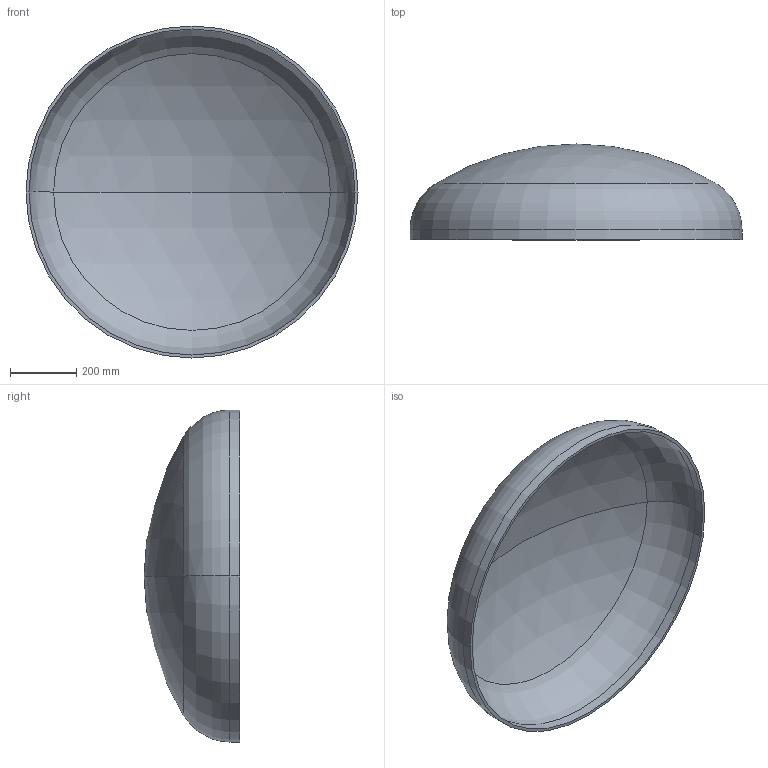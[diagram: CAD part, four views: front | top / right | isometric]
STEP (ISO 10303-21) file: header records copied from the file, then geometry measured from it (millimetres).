
FILE_DESCRIPTION (( 'STEP AP203' ), '1' );
FILE_NAME ('DIN 28013 Korbbogenform_-_Boden DIN 28013 - 1000 x 30 - I - s=9.step', '2016-07-01T08:41:54', ( '' ), ( '' ), 'SwSTEP 2.0', 'SolidWorks 2013', '' );
FILE_SCHEMA (( 'CONFIG_CONTROL_DESIGN' ));
Length unit declared in the file: millimetre
Products named in the file (1): DIN 28013 Korbbogenform_-_Boden DIN 28013 - 1000 x 30 - I - s=9
Bounding box: 1000 x 288.43 x 1000 mm (x, y, z)
Volume: 10526979 mm3; surface area: 2367517.3 mm2
Topology: 1 solids, 1 shells, 13 faces, 24 edges, 14 vertices
Faces by surface type: torus 4, cylinder 4, sphere 4, plane 1
Entity records: 407 total; most frequent: DIRECTION 72, CARTESIAN_POINT 52, ORIENTED_EDGE 48, AXIS2_PLACEMENT_3D 34, EDGE_CURVE 24, CIRCLE 20, VERTEX_POINT 14, EDGE_LOOP 14
